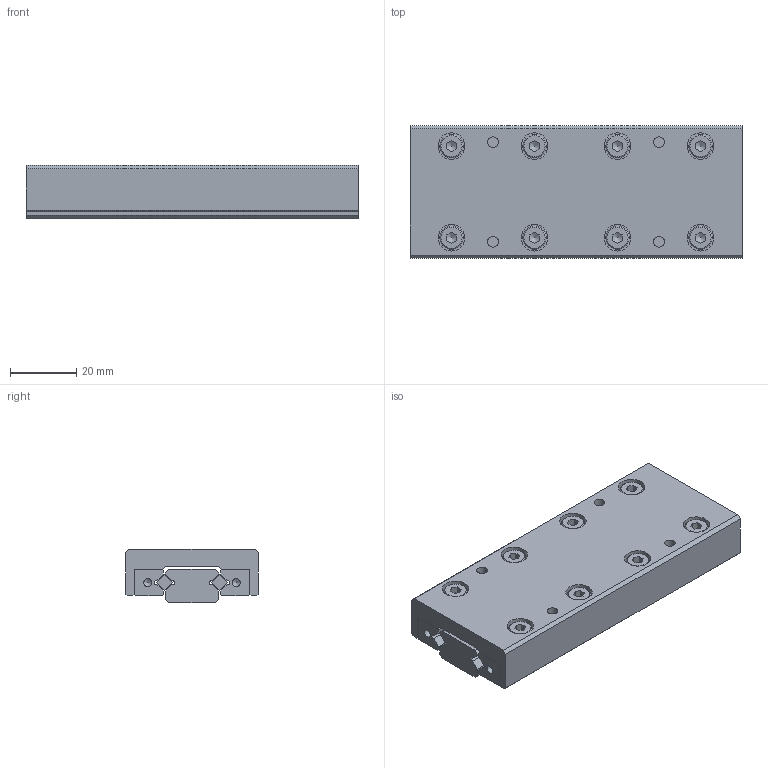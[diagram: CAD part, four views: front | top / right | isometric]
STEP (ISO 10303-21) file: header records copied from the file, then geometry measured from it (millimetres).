
FILE_DESCRIPTION((''),'2;1');
FILE_NAME('D:\製品 (図面)\カタログ用3D\リニアガイド関連\STEP形式\CRT3\CRT3100.stp','2010-07-29T15:48:56',('Tsuchiya'),(''),'Autodesk Inventor 10','Autodesk Inventor 10','');
FILE_SCHEMA(('AUTOMOTIVE_DESIGN { 1 0 10303 214 1 1 1 1 }'));
Length unit declared in the file: millimetre
Products named in the file (5): CRT3100; CRT31001; CRT31002; CRT31003; CRT31004
Assembly tree (4 placements, depth 2):
  CRT3100
    CRT31001
    CRT31002
    CRT31003
    CRT31004
Bounding box: 100 x 40 x 16 mm (x, y, z)
Volume: 52278.4 mm3; surface area: 26257.8 mm2
Topology: 4 solids, 12 shells, 325 faces, 750 edges, 494 vertices
Faces by surface type: plane 206, bspline 63, cylinder 30, cone 26
Full cylindrical faces by diameter (mm): 2.459 x2, 4 x16, 7 x8
Entity records: 9032 total; most frequent: CARTESIAN_POINT 2289, DIRECTION 1272, ORIENTED_EDGE 1244, EDGE_CURVE 622, EDGE_LOOP 494, VERTEX_POINT 460, AXIS2_PLACEMENT_3D 427, VECTOR 418
